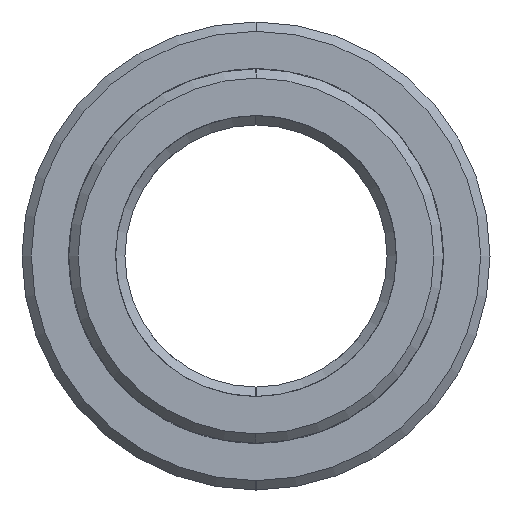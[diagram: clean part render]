
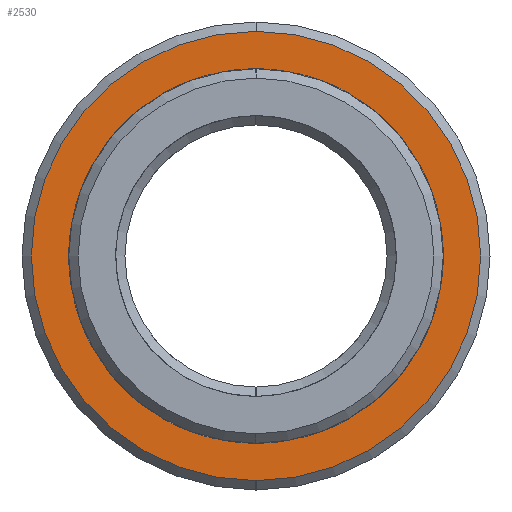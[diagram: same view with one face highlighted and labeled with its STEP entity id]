
A CAD part, left-side view. The second image highlights one B-rep face of the part: STEP entity #2530.
In plain terms, the highlighted planar face has unit normal (1, 0, 0).
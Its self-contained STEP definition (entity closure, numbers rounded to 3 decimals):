
#2447=CARTESIAN_POINT('Axis2P3D Location',(0.,0.,0.)) ;
#2452=CARTESIAN_POINT('Axis2P3D Location',(0.,0.,0.)) ;
#2456=CARTESIAN_POINT('Vertex',(0.,0.,-12.)) ;
#2458=CARTESIAN_POINT('Vertex',(0.,0.,12.)) ;
#2461=CARTESIAN_POINT('Axis2P3D Location',(0.,0.,0.)) ;
#2471=CARTESIAN_POINT('Control Point',(0.,0.,-10.)) ;
#2472=CARTESIAN_POINT('Control Point',(0.,-0.93,-10.)) ;
#2473=CARTESIAN_POINT('Control Point',(0.,-1.859,-9.892)) ;
#2474=CARTESIAN_POINT('Control Point',(0.,-2.772,-9.676)) ;
#2475=CARTESIAN_POINT('Control Point',(0.,-4.53,-9.036)) ;
#2476=CARTESIAN_POINT('Control Point',(0.,-6.095,-8.01)) ;
#2477=CARTESIAN_POINT('Control Point',(0.,-6.815,-7.407)) ;
#2478=CARTESIAN_POINT('Control Point',(0.,-8.1,-6.047)) ;
#2479=CARTESIAN_POINT('Control Point',(0.,-9.039,-4.428)) ;
#2480=CARTESIAN_POINT('Control Point',(0.,-9.412,-3.567)) ;
#2481=CARTESIAN_POINT('Control Point',(0.,-9.951,-1.775)) ;
#2482=CARTESIAN_POINT('Control Point',(0.,-10.065,0.093)) ;
#2483=CARTESIAN_POINT('Control Point',(0.,-10.012,1.03)) ;
#2484=CARTESIAN_POINT('Control Point',(0.,-9.691,2.873)) ;
#2485=CARTESIAN_POINT('Control Point',(0.,-8.955,4.594)) ;
#2486=CARTESIAN_POINT('Control Point',(0.,-8.489,5.408)) ;
#2487=CARTESIAN_POINT('Control Point',(0.,-7.375,6.912)) ;
#2488=CARTESIAN_POINT('Control Point',(0.,-5.946,8.121)) ;
#2489=CARTESIAN_POINT('Control Point',(0.,-5.165,8.639)) ;
#2490=CARTESIAN_POINT('Control Point',(0.,-3.696,9.383)) ;
#2491=CARTESIAN_POINT('Control Point',(0.,-2.111,9.813)) ;
#2492=CARTESIAN_POINT('Control Point',(0.,-1.412,9.938)) ;
#2493=CARTESIAN_POINT('Control Point',(0.,-0.706,10.)) ;
#2494=CARTESIAN_POINT('Control Point',(0.,0.,10.)) ;
#2495=CARTESIAN_POINT('Vertex',(0.,0.,-10.)) ;
#2497=CARTESIAN_POINT('Vertex',(0.,0.,10.)) ;
#2501=CARTESIAN_POINT('Control Point',(0.,0.,10.)) ;
#2502=CARTESIAN_POINT('Control Point',(0.,0.929,10.)) ;
#2503=CARTESIAN_POINT('Control Point',(0.,1.859,9.892)) ;
#2504=CARTESIAN_POINT('Control Point',(0.,2.771,9.676)) ;
#2505=CARTESIAN_POINT('Control Point',(0.,4.53,9.036)) ;
#2506=CARTESIAN_POINT('Control Point',(0.,6.095,8.01)) ;
#2507=CARTESIAN_POINT('Control Point',(0.,6.814,7.408)) ;
#2508=CARTESIAN_POINT('Control Point',(0.,8.1,6.048)) ;
#2509=CARTESIAN_POINT('Control Point',(0.,9.038,4.429)) ;
#2510=CARTESIAN_POINT('Control Point',(0.,9.411,3.568)) ;
#2511=CARTESIAN_POINT('Control Point',(0.,9.95,1.776)) ;
#2512=CARTESIAN_POINT('Control Point',(0.,10.065,-0.092)) ;
#2513=CARTESIAN_POINT('Control Point',(0.,10.013,-1.028)) ;
#2514=CARTESIAN_POINT('Control Point',(0.,9.692,-2.872)) ;
#2515=CARTESIAN_POINT('Control Point',(0.,8.956,-4.592)) ;
#2516=CARTESIAN_POINT('Control Point',(0.,8.49,-5.406)) ;
#2517=CARTESIAN_POINT('Control Point',(0.,7.376,-6.91)) ;
#2518=CARTESIAN_POINT('Control Point',(0.,5.948,-8.119)) ;
#2519=CARTESIAN_POINT('Control Point',(0.,5.167,-8.638)) ;
#2520=CARTESIAN_POINT('Control Point',(0.,3.698,-9.383)) ;
#2521=CARTESIAN_POINT('Control Point',(0.,2.113,-9.813)) ;
#2522=CARTESIAN_POINT('Control Point',(0.,1.413,-9.937)) ;
#2523=CARTESIAN_POINT('Control Point',(0.,0.707,-10.)) ;
#2524=CARTESIAN_POINT('Control Point',(0.,0.,-10.)) ;
#2448=DIRECTION('Axis2P3D Direction',(1.,0.,0.)) ;
#2449=DIRECTION('Axis2P3D XDirection',(0.,1.,0.)) ;
#2453=DIRECTION('Axis2P3D Direction',(1.,0.,0.)) ;
#2462=DIRECTION('Axis2P3D Direction',(1.,0.,0.)) ;
#2450=AXIS2_PLACEMENT_3D('Plane Axis2P3D',#2447,#2448,#2449) ;
#2454=AXIS2_PLACEMENT_3D('Circle Axis2P3D',#2452,#2453,$) ;
#2463=AXIS2_PLACEMENT_3D('Circle Axis2P3D',#2461,#2462,$) ;
#2467=ORIENTED_EDGE('',*,*,#2460,.T.) ;
#2468=ORIENTED_EDGE('',*,*,#2465,.T.) ;
#2527=ORIENTED_EDGE('',*,*,#2499,.T.) ;
#2528=ORIENTED_EDGE('',*,*,#2525,.T.) ;
#2529=FACE_BOUND('',#2526,.T.) ;
#2530=ADVANCED_FACE('MANIFOLD_SOLID_BREP #6561',(#2469,#2529),#2451,.T.) ;
#2470=B_SPLINE_CURVE_WITH_KNOTS('',5,(#2471,#2472,#2473,#2474,#2475,#2476,#2477,#2478,#2479,#2480,#2481,#2482,#2483,#2484,#2485,#2486,#2487,#2488,#2489,#2490,#2491,#2492,#2493,#2494),.UNSPECIFIED.,.F.,.U.,(6,3,3,3,3,3,3,6),(0.,6.573,13.145,19.718,26.29,32.863,39.436,44.428),.UNSPECIFIED.) ;
#2500=B_SPLINE_CURVE_WITH_KNOTS('',5,(#2501,#2502,#2503,#2504,#2505,#2506,#2507,#2508,#2509,#2510,#2511,#2512,#2513,#2514,#2515,#2516,#2517,#2518,#2519,#2520,#2521,#2522,#2523,#2524),.UNSPECIFIED.,.F.,.U.,(6,3,3,3,3,3,3,6),(0.,6.586,13.172,19.758,26.344,32.931,39.516,44.524),.UNSPECIFIED.) ;
#2455=CIRCLE('generated circle',#2454,12.) ;
#2464=CIRCLE('generated circle',#2463,12.) ;
#2460=EDGE_CURVE('',#2457,#2459,#2455,.T.) ;
#2465=EDGE_CURVE('',#2459,#2457,#2464,.T.) ;
#2499=EDGE_CURVE('',#2496,#2498,#2470,.T.) ;
#2525=EDGE_CURVE('',#2498,#2496,#2500,.T.) ;
#2466=EDGE_LOOP('',(#2467,#2468)) ;
#2526=EDGE_LOOP('',(#2527,#2528)) ;
#2469=FACE_OUTER_BOUND('',#2466,.T.) ;
#2451=PLANE('Plane',#2450) ;
#2457=VERTEX_POINT('',#2456) ;
#2459=VERTEX_POINT('',#2458) ;
#2496=VERTEX_POINT('',#2495) ;
#2498=VERTEX_POINT('',#2497) ;
